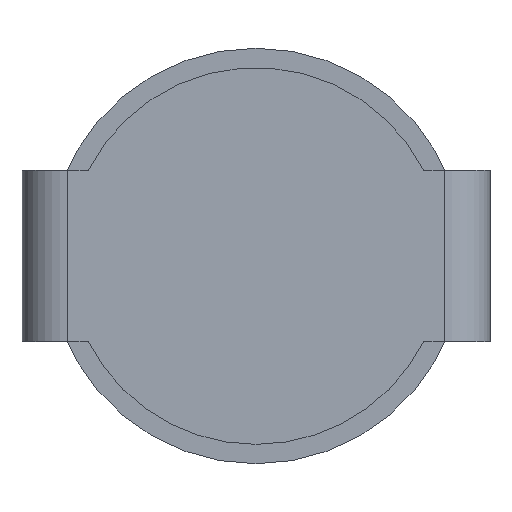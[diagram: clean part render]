
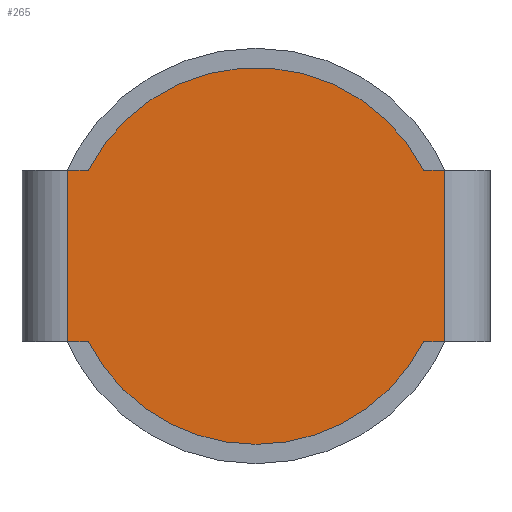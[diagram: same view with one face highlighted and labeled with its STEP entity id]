
A CAD part, front view. The second image highlights one B-rep face of the part: STEP entity #265.
In plain terms, the highlighted planar face has unit normal (0, -1, 0).
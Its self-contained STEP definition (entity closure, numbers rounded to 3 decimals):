
#6 = CARTESIAN_POINT ( 'NONE',  ( 0., 0., 0. ) ) ;
#9 = DIRECTION ( 'NONE',  ( 0., 0., -1. ) ) ;
#31 = DIRECTION ( 'NONE',  ( 0., 0., -1. ) ) ;
#46 = CARTESIAN_POINT ( 'NONE',  ( -165., 0., -75. ) ) ;
#50 = CIRCLE ( 'NONE', #83, 165. ) ;
#59 = CARTESIAN_POINT ( 'NONE',  ( -146.969, 0., -75. ) ) ;
#83 = AXIS2_PLACEMENT_3D ( 'NONE', #1655, #1647, #1470 ) ;
#99 = CARTESIAN_POINT ( 'NONE',  ( 165., 0., 75. ) ) ;
#129 = CARTESIAN_POINT ( 'NONE',  ( 165., 0., 75. ) ) ;
#142 = LINE ( 'NONE', #129, #1286 ) ;
#150 = DIRECTION ( 'NONE',  ( 1., 0., 0. ) ) ;
#165 = CARTESIAN_POINT ( 'NONE',  ( 0., 0., 0. ) ) ;
#208 = ORIENTED_EDGE ( 'NONE', *, *, #1240, .F. ) ;
#215 = EDGE_LOOP ( 'NONE', ( #1336, #1111, #1107, #208, #1956, #1696, #581, #862, #1171 ) ) ;
#220 = VECTOR ( 'NONE', #150, 1000. ) ;
#246 = EDGE_CURVE ( 'NONE', #874, #1021, #702, .T. ) ;
#260 = VECTOR ( 'NONE', #1366, 1000. ) ;
#265 = ADVANCED_FACE ( 'NONE', ( #1513 ), #1076, .F. ) ;
#288 = CARTESIAN_POINT ( 'NONE',  ( 165., 0., 75. ) ) ;
#329 = CIRCLE ( 'NONE', #1401, 165. ) ;
#331 = DIRECTION ( 'NONE',  ( 0., 0., 1. ) ) ;
#332 = VERTEX_POINT ( 'NONE', #59 ) ;
#372 = CARTESIAN_POINT ( 'NONE',  ( -165., 0., 75. ) ) ;
#489 = DIRECTION ( 'NONE',  ( 0., 0., 1. ) ) ;
#540 = EDGE_CURVE ( 'NONE', #942, #1536, #1812, .T. ) ;
#581 = ORIENTED_EDGE ( 'NONE', *, *, #1281, .T. ) ;
#592 = CARTESIAN_POINT ( 'NONE',  ( 146.969, 0., -75. ) ) ;
#616 = DIRECTION ( 'NONE',  ( 0., 1., 0. ) ) ;
#653 = EDGE_CURVE ( 'NONE', #677, #332, #906, .T. ) ;
#677 = VERTEX_POINT ( 'NONE', #46 ) ;
#702 = CIRCLE ( 'NONE', #1480, 165. ) ;
#735 = VERTEX_POINT ( 'NONE', #372 ) ;
#760 = LINE ( 'NONE', #1317, #849 ) ;
#769 = CARTESIAN_POINT ( 'NONE',  ( 165., 0., -75. ) ) ;
#833 = CARTESIAN_POINT ( 'NONE',  ( 0., 0., -165. ) ) ;
#845 = CARTESIAN_POINT ( 'NONE',  ( -146.969, 0., 75. ) ) ;
#849 = VECTOR ( 'NONE', #9, 1000. ) ;
#862 = ORIENTED_EDGE ( 'NONE', *, *, #653, .T. ) ;
#874 = VERTEX_POINT ( 'NONE', #845 ) ;
#884 = LINE ( 'NONE', #1026, #260 ) ;
#906 = LINE ( 'NONE', #1498, #1093 ) ;
#916 = DIRECTION ( 'NONE',  ( 1., 0., 0. ) ) ;
#930 = CARTESIAN_POINT ( 'NONE',  ( 0., 0., 0. ) ) ;
#942 = VERTEX_POINT ( 'NONE', #99 ) ;
#963 = EDGE_CURVE ( 'NONE', #1257, #1536, #884, .T. ) ;
#1021 = VERTEX_POINT ( 'NONE', #1825 ) ;
#1026 = CARTESIAN_POINT ( 'NONE',  ( 165., 0., -75. ) ) ;
#1064 = EDGE_CURVE ( 'NONE', #735, #874, #1189, .T. ) ;
#1076 = PLANE ( 'NONE',  #1544 ) ;
#1093 = VECTOR ( 'NONE', #916, 1000. ) ;
#1107 = ORIENTED_EDGE ( 'NONE', *, *, #540, .F. ) ;
#1111 = ORIENTED_EDGE ( 'NONE', *, *, #963, .T. ) ;
#1171 = ORIENTED_EDGE ( 'NONE', *, *, #1561, .F. ) ;
#1189 = LINE ( 'NONE', #288, #220 ) ;
#1192 = DIRECTION ( 'NONE',  ( 1., 0., 0. ) ) ;
#1223 = DIRECTION ( 'NONE',  ( 0., 1., 0. ) ) ;
#1236 = EDGE_CURVE ( 'NONE', #1257, #1349, #50, .T. ) ;
#1240 = EDGE_CURVE ( 'NONE', #1021, #942, #142, .T. ) ;
#1257 = VERTEX_POINT ( 'NONE', #592 ) ;
#1281 = EDGE_CURVE ( 'NONE', #735, #677, #760, .T. ) ;
#1286 = VECTOR ( 'NONE', #1192, 1000. ) ;
#1317 = CARTESIAN_POINT ( 'NONE',  ( -165., 0., 75. ) ) ;
#1336 = ORIENTED_EDGE ( 'NONE', *, *, #1236, .F. ) ;
#1349 = VERTEX_POINT ( 'NONE', #833 ) ;
#1366 = DIRECTION ( 'NONE',  ( 1., 0., 0. ) ) ;
#1401 = AXIS2_PLACEMENT_3D ( 'NONE', #6, #616, #1804 ) ;
#1470 = DIRECTION ( 'NONE',  ( 0., 0., 1. ) ) ;
#1480 = AXIS2_PLACEMENT_3D ( 'NONE', #165, #1223, #331 ) ;
#1498 = CARTESIAN_POINT ( 'NONE',  ( 165., 0., -75. ) ) ;
#1513 = FACE_OUTER_BOUND ( 'NONE', #215, .T. ) ;
#1523 = DIRECTION ( 'NONE',  ( 0., 1., 0. ) ) ;
#1536 = VERTEX_POINT ( 'NONE', #769 ) ;
#1544 = AXIS2_PLACEMENT_3D ( 'NONE', #930, #1523, #489 ) ;
#1561 = EDGE_CURVE ( 'NONE', #1349, #332, #329, .T. ) ;
#1647 = DIRECTION ( 'NONE',  ( 0., 1., 0. ) ) ;
#1655 = CARTESIAN_POINT ( 'NONE',  ( 0., 0., 0. ) ) ;
#1696 = ORIENTED_EDGE ( 'NONE', *, *, #1064, .F. ) ;
#1804 = DIRECTION ( 'NONE',  ( 0., 0., 1. ) ) ;
#1812 = LINE ( 'NONE', #1828, #1902 ) ;
#1825 = CARTESIAN_POINT ( 'NONE',  ( 146.969, 0., 75. ) ) ;
#1828 = CARTESIAN_POINT ( 'NONE',  ( 165., 0., 75. ) ) ;
#1902 = VECTOR ( 'NONE', #31, 1000. ) ;
#1956 = ORIENTED_EDGE ( 'NONE', *, *, #246, .F. ) ;
